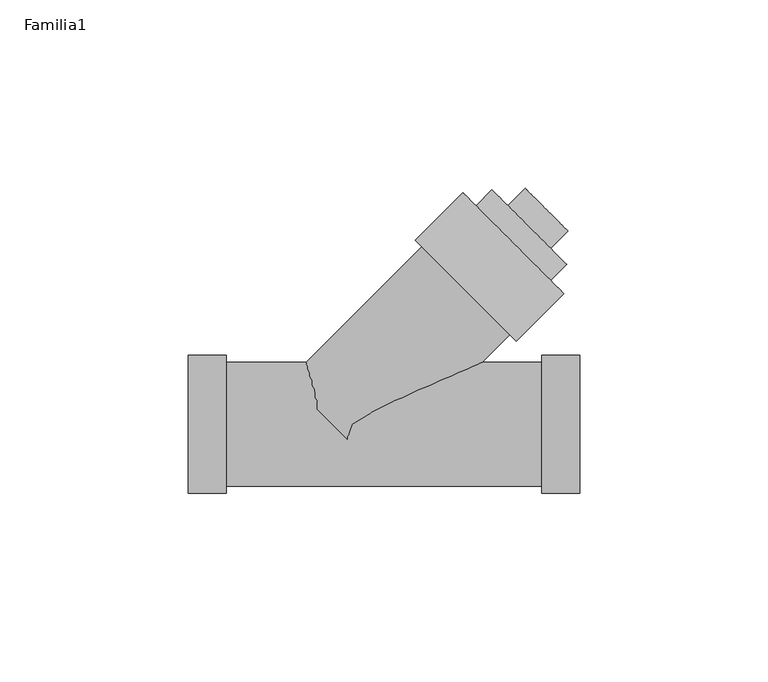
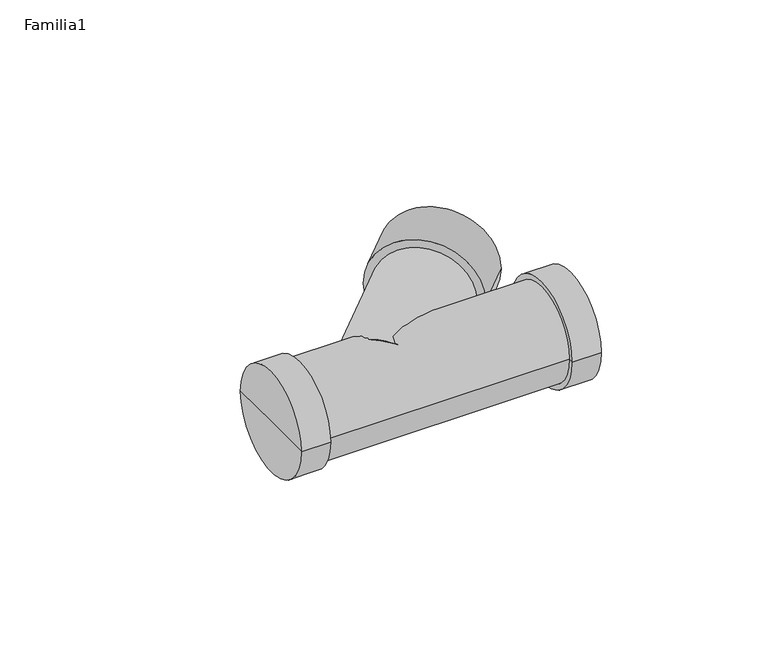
"""IFC4 building model written with IfcOpenShell, lengths in millimetres: pipe fitting geometry, AmancoWavin_Unionesdetubería_AguaPotableZNoUsarFiltroTanque : Familia1."""

from ifc_helpers import new_model, si_unit, point, frame, frame_2d, origin, place, context, project, spatial, circle_curve, trimmed, segment, composite_curve, outline, extrude, source, transform, mapped, element, save
from ifc_brep_helpers import plane_surface, cylinder_surface, advanced_brep


def familia1_964c2ff3(model_context):
    return source(origin(), model_context, "Body", "SolidModel", [
        extrude(outline(composite_curve([segment(trimmed(circle_curve(frame_2d((0.0, -8.0)), 8.0), [point((0.0, -16.0))], [point((0.0, 0.0))], False, "CARTESIAN"), True, "CONTINUOUS"), segment(trimmed(circle_curve(frame_2d((0.0, -8.0)), 8.0), [point((0.0, 0.0))], [point((0.0, -16.0))], False, "CARTESIAN"), True, "CONTINUOUS")], self_intersect=False)), frame((46.6410795, 57.954788, 0.0), z_axis=(0.7071067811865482, 0.7071067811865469, 0.0), x_axis=(0.0, 0.0, -1.0)), (0.0, 0.0, 1.0), 6.5189732),
        extrude(outline(composite_curve([segment(trimmed(circle_curve(frame_2d((0.0, -14.0)), 14.0), [point((0.0, -28.0))], [point((0.0, 0.0))], False, "CARTESIAN"), True, "CONTINUOUS"), segment(trimmed(circle_curve(frame_2d((0.0, -14.0)), 14.0), [point((0.0, 0.0))], [point((0.0, -28.0))], False, "CARTESIAN"), True, "CONTINUOUS")], self_intersect=False)), frame((38.1586589, 57.9576488, 0.0), z_axis=(0.7071067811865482, 0.7071067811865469, 0.0), x_axis=(0.0, 0.0, -1.0)), (0.0, 0.0, 1.0), 5.9959542),
        extrude(outline(composite_curve([segment(trimmed(circle_curve(frame_2d((0.0, -19.0)), 19.0), [point((0.0, -38.0))], [point((0.0, 0.0))], False, "CARTESIAN"), True, "CONTINUOUS"), segment(trimmed(circle_curve(frame_2d((0.0, -19.0)), 19.0), [point((0.0, 0.0))], [point((0.0, -38.0))], False, "CARTESIAN"), True, "CONTINUOUS")], self_intersect=False)), frame((21.9992574, 48.8693151, 0.0), z_axis=(0.7071067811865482, 0.7071067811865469, 0.0), x_axis=(0.0, 0.0, -1.0)), (0.0, 0.0, 1.0), 17.8528448),
        advanced_brep(
        [(11.6672619, -11.6672619, 0.0), (-11.6672619, 11.6672619, 0.0), (23.7670244, 47.1015482, 0.0), (47.1015482, 23.7670244, 0.0), (0.0, 0.0, 0.0), (35.4342863, 35.4342863, 0.0)],
        [
            (0, 1, circle_curve(frame((0.0, 0.0, 0.0), z_axis=(0.7071067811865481, 0.7071067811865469, 0.0), x_axis=(-0.7071067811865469, 0.7071067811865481, 0.0)), 16.5)),
            (1, 2),
            (2, 3, circle_curve(frame((35.4342863, 35.4342863, 0.0), z_axis=(-0.7071067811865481, -0.7071067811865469, 0.0), x_axis=(-0.7071067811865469, 0.7071067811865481, 0.0)), 16.5)),
            (3, 0),
            (1, 0, circle_curve(frame((0.0, 0.0, 0.0), z_axis=(0.7071067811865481, 0.7071067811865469, 0.0), x_axis=(-0.7071067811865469, 0.7071067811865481, 0.0)), 16.5)),
            (3, 2, circle_curve(frame((35.4342863, 35.4342863, 0.0), z_axis=(-0.7071067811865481, -0.7071067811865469, 0.0), x_axis=(-0.7071067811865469, 0.7071067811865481, 0.0)), 16.5)),
            (4, 1),
            (0, 4),
            (2, 5),
            (5, 3),
        ],
        [
            cylinder_surface(frame((0.0, 0.0, 0.0), z_axis=(-0.7071067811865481, -0.7071067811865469, 0.0), x_axis=(-0.7071067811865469, 0.7071067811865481, 0.0)), 16.5),
            plane_surface(frame((0.0, 0.0, 0.0), z_axis=(-0.7071067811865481, -0.7071067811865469, 0.0), x_axis=(-0.7071067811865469, 0.7071067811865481, 0.0))),
            plane_surface(frame((35.4342863, 35.4342863, 0.0), z_axis=(0.7071067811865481, 0.7071067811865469, 0.0), x_axis=(-0.7071067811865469, 0.7071067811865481, 0.0))),
        ],
        [
            (0, [[1, 2, 3, 4]]),
            (0, [[5, -4, 6, -2]]),
            (1, [[7, -1, 8]]),
            (1, [[-8, -5, -7]]),
            (2, [[-3, 9, 10]]),
            (2, [[-6, -10, -9]]),
        ],
    ),
        advanced_brep(
        [(-28.125, -16.4745427, 0.0), (-28.125, 16.4745427, 0.0), (55.625, 16.4745427, 0.0), (55.625, -16.4745427, 0.0), (-28.125, -18.3495427, 0.0), (-28.125, 18.3495427, 0.0), (-38.125, -18.3495427, 0.0), (-38.125, 18.3495427, 0.0), (-38.125, 0.0, 0.0), (65.625, -18.3495427, 0.0), (65.625, 18.3495427, 0.0), (65.625, 0.0, 0.0), (55.625, -18.3495427, 0.0), (55.625, 18.3495427, 0.0)],
        [
            (0, 1, circle_curve(frame((-28.125, 0.0, 0.0), z_axis=(1.0, 0.0, 0.0), x_axis=(0.0, 1.0, 0.0)), 16.4745427)),
            (1, 2),
            (2, 3, circle_curve(frame((55.625, 0.0, 0.0), z_axis=(-1.0, 0.0, 0.0), x_axis=(0.0, 1.0, 0.0)), 16.4745427)),
            (3, 0),
            (1, 0, circle_curve(frame((-28.125, 0.0, 0.0), z_axis=(1.0, 0.0, 0.0), x_axis=(0.0, 1.0, 0.0)), 16.4745427)),
            (3, 2, circle_curve(frame((55.625, 0.0, 0.0), z_axis=(-1.0, 0.0, 0.0), x_axis=(0.0, 1.0, 0.0)), 16.4745427)),
            (4, 5, circle_curve(frame((-28.125, 0.0, 0.0), z_axis=(1.0, 0.0, 0.0), x_axis=(0.0, 1.0, 0.0)), 18.3495427)),
            (5, 1),
            (0, 4),
            (5, 4, circle_curve(frame((-28.125, 0.0, 0.0), z_axis=(1.0, 0.0, 0.0), x_axis=(0.0, 1.0, 0.0)), 18.3495427)),
            (6, 7, circle_curve(frame((-38.125, 0.0, 0.0), z_axis=(1.0, 0.0, 0.0), x_axis=(0.0, 1.0, 0.0)), 18.3495427)),
            (7, 5),
            (4, 6),
            (7, 6, circle_curve(frame((-38.125, 0.0, 0.0), z_axis=(1.0, 0.0, 0.0), x_axis=(0.0, 1.0, 0.0)), 18.3495427)),
            (8, 7),
            (6, 8),
            (9, 10, circle_curve(frame((65.625, 0.0, 0.0), z_axis=(1.0, 0.0, 0.0), x_axis=(0.0, 1.0, 0.0)), 18.3495427)),
            (10, 11),
            (11, 9),
            (10, 9, circle_curve(frame((65.625, 0.0, 0.0), z_axis=(1.0, 0.0, 0.0), x_axis=(0.0, 1.0, 0.0)), 18.3495427)),
            (12, 13, circle_curve(frame((55.625, 0.0, 0.0), z_axis=(1.0, 0.0, 0.0), x_axis=(0.0, 1.0, 0.0)), 18.3495427)),
            (13, 10),
            (9, 12),
            (13, 12, circle_curve(frame((55.625, 0.0, 0.0), z_axis=(1.0, 0.0, 0.0), x_axis=(0.0, 1.0, 0.0)), 18.3495427)),
            (2, 13),
            (12, 3),
        ],
        [
            cylinder_surface(frame((-50.625, 0.0, 0.0), z_axis=(-1.0, 0.0, 0.0), x_axis=(0.0, 1.0, 0.0)), 16.4745427),
            plane_surface(frame((-28.125, 0.0, 0.0), z_axis=(1.0, 0.0, 0.0), x_axis=(0.0, 1.0, 0.0))),
            cylinder_surface(frame((-50.625, 0.0, 0.0), z_axis=(-1.0, 0.0, 0.0), x_axis=(0.0, 1.0, 0.0)), 18.3495427),
            plane_surface(frame((-38.125, 0.0, 0.0), z_axis=(-1.0, 0.0, 0.0), x_axis=(0.0, 1.0, 0.0))),
            plane_surface(frame((65.625, 0.0, 0.0), z_axis=(1.0, 0.0, 0.0), x_axis=(0.0, 1.0, 0.0))),
            plane_surface(frame((55.625, 0.0, 0.0), z_axis=(-1.0, 0.0, 0.0), x_axis=(0.0, 1.0, 0.0))),
        ],
        [
            (0, [[1, 2, 3, 4]]),
            (0, [[5, -4, 6, -2]]),
            (1, [[7, 8, -1, 9]]),
            (1, [[10, -9, -5, -8]]),
            (2, [[11, 12, -7, 13]]),
            (2, [[14, -13, -10, -12]]),
            (3, [[15, -11, 16]]),
            (3, [[-16, -14, -15]]),
            (4, [[17, 18, 19]]),
            (4, [[20, -19, -18]]),
            (2, [[21, 22, -17, 23]]),
            (2, [[24, -23, -20, -22]]),
            (5, [[-3, 25, -21, 26]]),
            (5, [[-6, -26, -24, -25]]),
        ],
    ),
    ])


if __name__ == "__main__":
    model = new_model("IFC4")
    model_context = context("Model", 3, world=origin())
    ifc_project = project(units=[si_unit("LENGTHUNIT", "METRE", prefix="MILLI")], contexts=[model_context])
    site = spatial("IfcSite", under=ifc_project)
    building = spatial("IfcBuilding", under=site)
    placement = place(None, origin())
    familia1_shape = familia1_964c2ff3(model_context)
    element("IfcPipeFitting", 1, ObjectType="AmancoWavin_Unionesdetubería_AguaPotableZNoUsarFiltroTanque : Familia1", at=placement, inside=building, context=model_context, shape_type="MappedRepresentation", body=[
        mapped(familia1_shape, transform((0.0, 0.0, 0.0), x_axis=(1.0, 0.0, 0.0), y_axis=(0.0, 1.0, 0.0), z_axis=(0.0, 0.0, 1.0))),
    ])
    save(model, "model.ifc")
